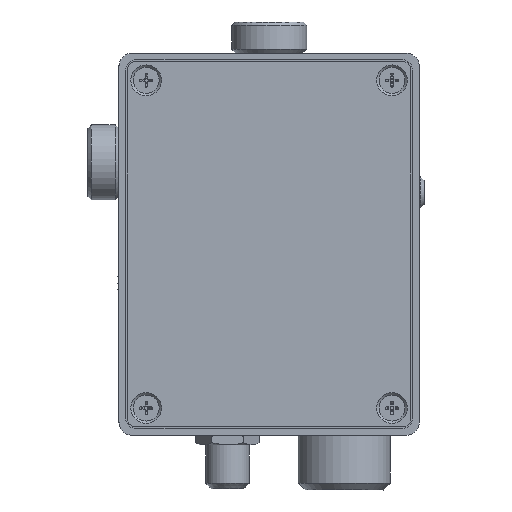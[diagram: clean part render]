
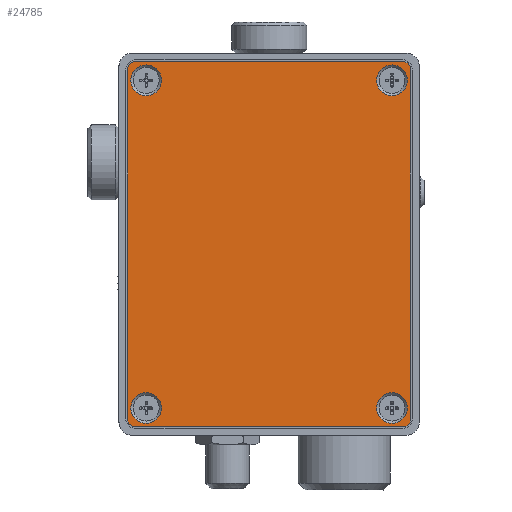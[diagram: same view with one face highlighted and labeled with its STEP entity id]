
A CAD part, front view. The second image highlights one B-rep face of the part: STEP entity #24785.
In plain terms, the highlighted planar face has unit normal (0, -1, 0).
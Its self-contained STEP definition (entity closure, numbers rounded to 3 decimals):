
#1564=FACE_BOUND('',#3698,.T.);
#1565=FACE_BOUND('',#3699,.T.);
#1566=FACE_BOUND('',#3700,.T.);
#1567=FACE_BOUND('',#3701,.T.);
#1843=CIRCLE('',#26107,2.25);
#1844=CIRCLE('',#26108,2.25);
#1845=CIRCLE('',#26110,2.25);
#1846=CIRCLE('',#26111,2.25);
#1847=CIRCLE('',#26113,2.25);
#1848=CIRCLE('',#26114,2.25);
#1849=CIRCLE('',#26116,2.25);
#1850=CIRCLE('',#26117,2.25);
#1872=CIRCLE('',#26205,1.);
#1873=CIRCLE('',#26206,1.);
#1874=CIRCLE('',#26207,1.);
#1875=CIRCLE('',#26208,1.);
#2363=FACE_OUTER_BOUND('',#3697,.T.);
#3697=EDGE_LOOP('',(#16998,#16999,#17000,#17001,#17002,#17003,#17004,#17005));
#3698=EDGE_LOOP('',(#17006,#17007));
#3699=EDGE_LOOP('',(#17008,#17009));
#3700=EDGE_LOOP('',(#17010,#17011));
#3701=EDGE_LOOP('',(#17012,#17013));
#5250=LINE('',#36773,#7524);
#5251=LINE('',#36777,#7525);
#5252=LINE('',#36781,#7526);
#5253=LINE('',#36785,#7527);
#7524=VECTOR('',#28351,10.);
#7525=VECTOR('',#28354,10.);
#7526=VECTOR('',#28357,10.);
#7527=VECTOR('',#28360,10.);
#9770=VERTEX_POINT('',#33832);
#9771=VERTEX_POINT('',#33833);
#9772=VERTEX_POINT('',#33838);
#9773=VERTEX_POINT('',#33839);
#9774=VERTEX_POINT('',#33844);
#9775=VERTEX_POINT('',#33845);
#9776=VERTEX_POINT('',#33850);
#9777=VERTEX_POINT('',#33851);
#10010=VERTEX_POINT('',#36771);
#10011=VERTEX_POINT('',#36772);
#10012=VERTEX_POINT('',#36774);
#10013=VERTEX_POINT('',#36776);
#10014=VERTEX_POINT('',#36778);
#10015=VERTEX_POINT('',#36780);
#10016=VERTEX_POINT('',#36782);
#10017=VERTEX_POINT('',#36784);
#12289=EDGE_CURVE('',#9770,#9771,#1843,.T.);
#12290=EDGE_CURVE('',#9771,#9770,#1844,.T.);
#12292=EDGE_CURVE('',#9772,#9773,#1845,.T.);
#12293=EDGE_CURVE('',#9773,#9772,#1846,.T.);
#12295=EDGE_CURVE('',#9774,#9775,#1847,.T.);
#12296=EDGE_CURVE('',#9775,#9774,#1848,.T.);
#12298=EDGE_CURVE('',#9776,#9777,#1849,.T.);
#12299=EDGE_CURVE('',#9777,#9776,#1850,.T.);
#12694=EDGE_CURVE('',#10010,#10011,#5250,.T.);
#12695=EDGE_CURVE('',#10012,#10011,#1872,.T.);
#12696=EDGE_CURVE('',#10012,#10013,#5251,.T.);
#12697=EDGE_CURVE('',#10014,#10013,#1873,.T.);
#12698=EDGE_CURVE('',#10014,#10015,#5252,.T.);
#12699=EDGE_CURVE('',#10016,#10015,#1874,.T.);
#12700=EDGE_CURVE('',#10016,#10017,#5253,.T.);
#12701=EDGE_CURVE('',#10010,#10017,#1875,.T.);
#16998=ORIENTED_EDGE('',*,*,#12694,.T.);
#16999=ORIENTED_EDGE('',*,*,#12695,.F.);
#17000=ORIENTED_EDGE('',*,*,#12696,.T.);
#17001=ORIENTED_EDGE('',*,*,#12697,.F.);
#17002=ORIENTED_EDGE('',*,*,#12698,.T.);
#17003=ORIENTED_EDGE('',*,*,#12699,.F.);
#17004=ORIENTED_EDGE('',*,*,#12700,.T.);
#17005=ORIENTED_EDGE('',*,*,#12701,.F.);
#17006=ORIENTED_EDGE('',*,*,#12298,.T.);
#17007=ORIENTED_EDGE('',*,*,#12299,.T.);
#17008=ORIENTED_EDGE('',*,*,#12295,.T.);
#17009=ORIENTED_EDGE('',*,*,#12296,.T.);
#17010=ORIENTED_EDGE('',*,*,#12292,.T.);
#17011=ORIENTED_EDGE('',*,*,#12293,.T.);
#17012=ORIENTED_EDGE('',*,*,#12289,.T.);
#17013=ORIENTED_EDGE('',*,*,#12290,.T.);
#22600=PLANE('',#26204);
#24785=ADVANCED_FACE('',(#2363,#1564,#1565,#1566,#1567),#22600,.T.);
#26107=AXIS2_PLACEMENT_3D('',#33834,#27967,#27968);
#26108=AXIS2_PLACEMENT_3D('',#33835,#27969,#27970);
#26110=AXIS2_PLACEMENT_3D('',#33840,#27974,#27975);
#26111=AXIS2_PLACEMENT_3D('',#33841,#27976,#27977);
#26113=AXIS2_PLACEMENT_3D('',#33846,#27981,#27982);
#26114=AXIS2_PLACEMENT_3D('',#33847,#27983,#27984);
#26116=AXIS2_PLACEMENT_3D('',#33852,#27988,#27989);
#26117=AXIS2_PLACEMENT_3D('',#33853,#27990,#27991);
#26204=AXIS2_PLACEMENT_3D('',#36770,#28349,#28350);
#26205=AXIS2_PLACEMENT_3D('',#36775,#28352,#28353);
#26206=AXIS2_PLACEMENT_3D('',#36779,#28355,#28356);
#26207=AXIS2_PLACEMENT_3D('',#36783,#28358,#28359);
#26208=AXIS2_PLACEMENT_3D('',#36786,#28361,#28362);
#27967=DIRECTION('center_axis',(0.,1.,0.));
#27968=DIRECTION('ref_axis',(0.,0.,
1.));
#27969=DIRECTION('center_axis',(0.,1.,0.));
#27970=DIRECTION('ref_axis',(0.,0.,
1.));
#27974=DIRECTION('center_axis',(0.,1.,0.));
#27975=DIRECTION('ref_axis',(0.,0.,
1.));
#27976=DIRECTION('center_axis',(0.,1.,0.));
#27977=DIRECTION('ref_axis',(0.,0.,
1.));
#27981=DIRECTION('center_axis',(0.,1.,0.));
#27982=DIRECTION('ref_axis',(0.,0.,
1.));
#27983=DIRECTION('center_axis',(0.,1.,0.));
#27984=DIRECTION('ref_axis',(0.,0.,
1.));
#27988=DIRECTION('center_axis',(0.,1.,0.));
#27989=DIRECTION('ref_axis',(0.,0.,
1.));
#27990=DIRECTION('center_axis',(0.,1.,0.));
#27991=DIRECTION('ref_axis',(0.,0.,
1.));
#28349=DIRECTION('center_axis',(0.,-1.,0.));
#28350=DIRECTION('ref_axis',(0.,0.,
1.));
#28351=DIRECTION('',(0.,0.,1.));
#28352=DIRECTION('center_axis',(0.,1.,0.));
#28353=DIRECTION('ref_axis',(0.707,0.,0.707));
#28354=DIRECTION('',(-1.,0.,0.));
#28355=DIRECTION('center_axis',(0.,1.,0.));
#28356=DIRECTION('ref_axis',(-0.707,0.,0.707));
#28357=DIRECTION('',(0.,0.,-1.));
#28358=DIRECTION('center_axis',(0.,1.,0.));
#28359=DIRECTION('ref_axis',(-0.707,0.,-0.707));
#28360=DIRECTION('',(1.,0.,0.));
#28361=DIRECTION('center_axis',(0.,1.,0.));
#28362=DIRECTION('ref_axis',(0.707,0.,-0.707));
#33832=CARTESIAN_POINT('',(3.6,-0.3,54.35));
#33833=CARTESIAN_POINT('',(3.6,-0.3,49.85));
#33834=CARTESIAN_POINT('Origin',(3.6,-0.3,52.1));
#33835=CARTESIAN_POINT('Origin',(3.6,-0.3,52.1));
#33838=CARTESIAN_POINT('',(39.6,-0.3,6.35));
#33839=CARTESIAN_POINT('',(39.6,-0.3,1.85));
#33840=CARTESIAN_POINT('Origin',(39.6,-0.3,4.1));
#33841=CARTESIAN_POINT('Origin',(39.6,-0.3,4.1));
#33844=CARTESIAN_POINT('',(39.6,-0.3,54.35));
#33845=CARTESIAN_POINT('',(39.6,-0.3,49.85));
#33846=CARTESIAN_POINT('Origin',(39.6,-0.3,52.1));
#33847=CARTESIAN_POINT('Origin',(39.6,-0.3,52.1));
#33850=CARTESIAN_POINT('',(3.6,-0.3,6.35));
#33851=CARTESIAN_POINT('',(3.6,-0.3,1.85));
#33852=CARTESIAN_POINT('Origin',(3.6,-0.3,4.1));
#33853=CARTESIAN_POINT('Origin',(3.6,-0.3,4.1));
#36770=CARTESIAN_POINT('Origin',(21.6,-0.3,28.1));
#36771=CARTESIAN_POINT('',(42.3,-0.3,2.4));
#36772=CARTESIAN_POINT('',(42.3,-0.3,53.8));
#36773=CARTESIAN_POINT('',(42.3,-0.3,54.8));
#36774=CARTESIAN_POINT('',(41.3,-0.3,54.8));
#36775=CARTESIAN_POINT('Origin',(41.3,-0.3,53.8));
#36776=CARTESIAN_POINT('',(1.9,-0.3,54.8));
#36777=CARTESIAN_POINT('',(0.9,-0.3,54.8));
#36778=CARTESIAN_POINT('',(0.9,-0.3,53.8));
#36779=CARTESIAN_POINT('Origin',(1.9,-0.3,53.8));
#36780=CARTESIAN_POINT('',(0.9,-0.3,2.4));
#36781=CARTESIAN_POINT('',(0.9,-0.3,1.4));
#36782=CARTESIAN_POINT('',(1.9,-0.3,1.4));
#36783=CARTESIAN_POINT('Origin',(1.9,-0.3,2.4));
#36784=CARTESIAN_POINT('',(41.3,-0.3,1.4));
#36785=CARTESIAN_POINT('',(42.3,-0.3,1.4));
#36786=CARTESIAN_POINT('Origin',(41.3,-0.3,2.4));
